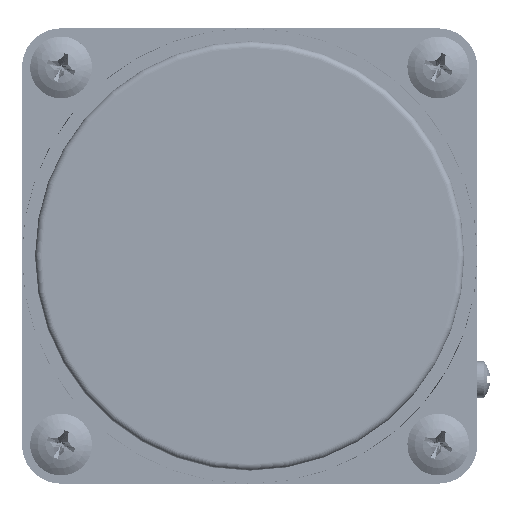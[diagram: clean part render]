
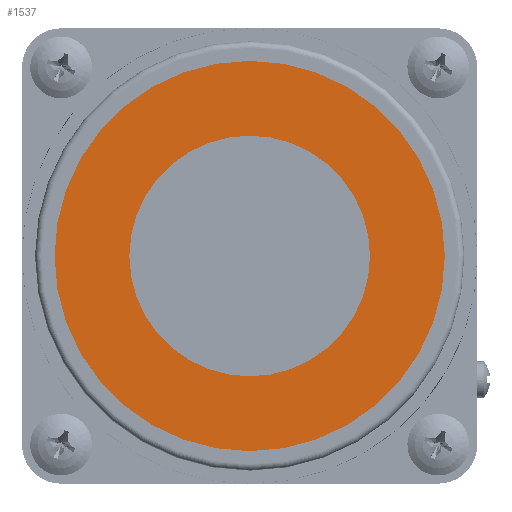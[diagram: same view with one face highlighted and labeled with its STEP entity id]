
A CAD part, left-side view. The second image highlights one B-rep face of the part: STEP entity #1537.
In plain terms, the highlighted planar face has unit normal (-1, 0, 0).
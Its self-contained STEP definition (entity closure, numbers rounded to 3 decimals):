
#611=FACE_BOUND('',#2175,.T.);
#612=FACE_BOUND('',#2176,.T.);
#926=PLANE('',#5381);
#1537=ADVANCED_FACE('',(#611,#612),#926,.T.);
#2175=EDGE_LOOP('',(#3220));
#2176=EDGE_LOOP('',(#3221));
#3220=ORIENTED_EDGE('',*,*,#4554,.F.);
#3221=ORIENTED_EDGE('',*,*,#4553,.F.);
#3958=VERTEX_POINT('',#68152);
#3959=VERTEX_POINT('',#68155);
#4553=EDGE_CURVE('',#3958,#3958,#4929,.T.);
#4554=EDGE_CURVE('',#3959,#3959,#4930,.T.);
#4929=CIRCLE('',#5378,30.);
#4930=CIRCLE('',#5380,18.5);
#5378=AXIS2_PLACEMENT_3D('',#68151,#6213,#6214);
#5380=AXIS2_PLACEMENT_3D('',#68154,#6217,#6218);
#5381=AXIS2_PLACEMENT_3D('',#68156,#6219,#6220);
#6213=DIRECTION('',(1.,0.,0.));
#6214=DIRECTION('',(0.,0.,-1.));
#6217=DIRECTION('',(-1.,0.,0.));
#6218=DIRECTION('',(0.,0.,-1.));
#6219=DIRECTION('',(-1.,0.,0.));
#6220=DIRECTION('',(0.,0.,-1.));
#68151=CARTESIAN_POINT('',(-79.,0.,0.));
#68152=CARTESIAN_POINT('',(-79.,0.,-30.));
#68154=CARTESIAN_POINT('',(-79.,0.,0.));
#68155=CARTESIAN_POINT('',(-79.,0.,-18.5));
#68156=CARTESIAN_POINT('',(-79.,0.,0.));
